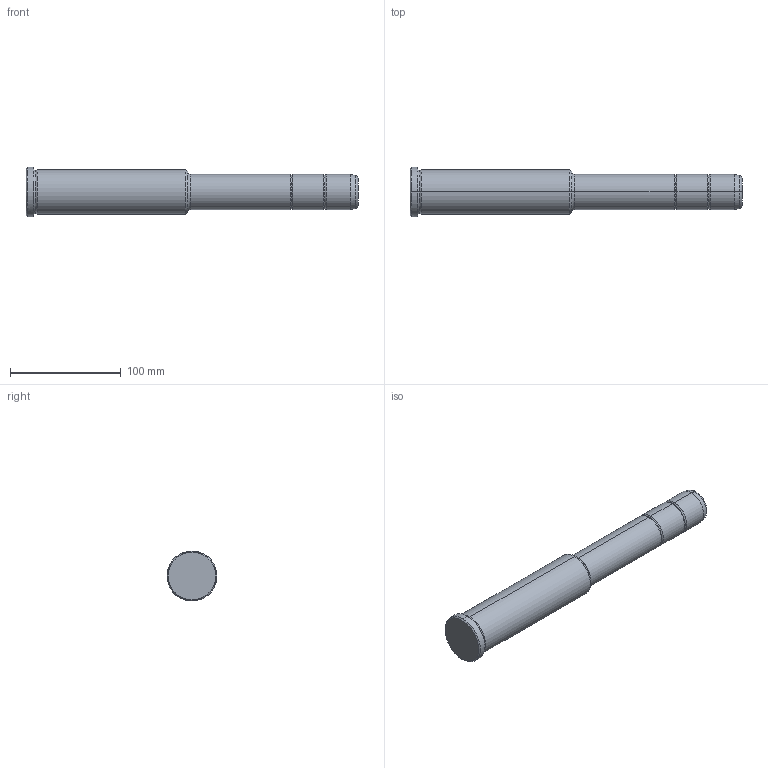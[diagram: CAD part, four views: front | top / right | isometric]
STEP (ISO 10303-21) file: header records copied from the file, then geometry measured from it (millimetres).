
FILE_DESCRIPTION(('CATIA V5 STEP Exchange'),'2;1');
FILE_NAME('C:\Users\Utente\Desktop\IO LAVORO\3D X SITO CF\X SITO\PLASTICA\351\351-32X146X300.stp','2021-09-15T12:11:48+00:00',('none'),('none'),'CATIA Version 5 Release 20 GA (IN-10)','CATIA V5 STEP AP203','none');
FILE_SCHEMA(('CONFIG_CONTROL_DESIGN'));
Length unit declared in the file: millimetre
Products named in the file (1): 351-32X146X300
Bounding box: 300 x 45 x 45 mm (x, y, z)
Volume: 308454.5 mm3; surface area: 36690.2 mm2
Topology: 1 solids, 1 shells, 36 faces, 102 edges, 70 vertices
Faces by surface type: torus 16, cylinder 10, cone 6, plane 4
Entity records: 1292 total; most frequent: CARTESIAN_POINT 321, ORIENTED_EDGE 204, DIRECTION 166, AXIS2_PLACEMENT_3D 115, EDGE_CURVE 102, CIRCLE 78, VERTEX_POINT 70, EDGE_LOOP 38
